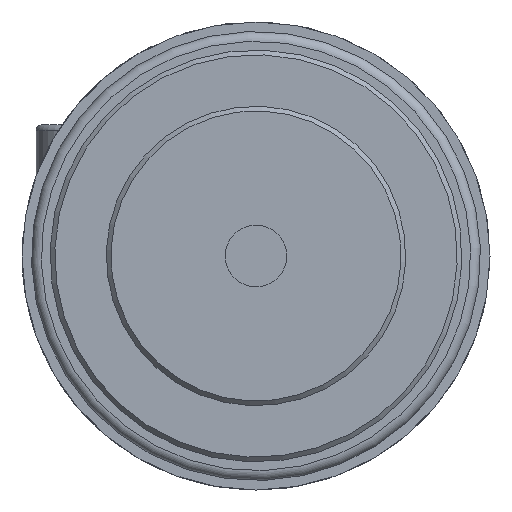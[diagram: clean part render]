
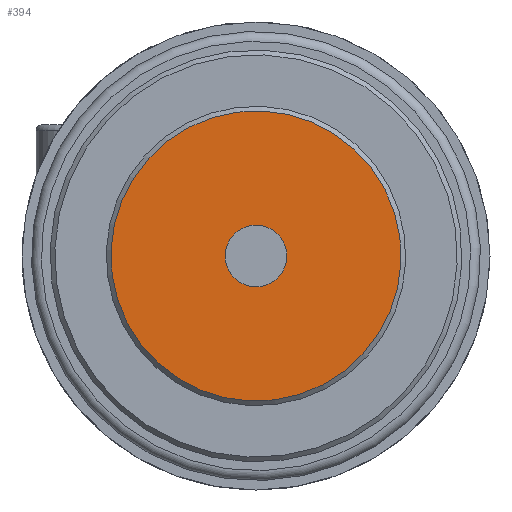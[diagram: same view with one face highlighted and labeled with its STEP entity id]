
A CAD part, left-side view. The second image highlights one B-rep face of the part: STEP entity #394.
In plain terms, the highlighted planar face has unit normal (-1, 0, 0) as drawn and (1, 0, 0) by its records, which use the part's own axes.
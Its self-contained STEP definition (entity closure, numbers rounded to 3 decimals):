
#394 = ADVANCED_FACE( '', ( #910, #911 ), #912, .T. );
#910 = FACE_OUTER_BOUND( '', #1712, .T. );
#911 = FACE_BOUND( '', #1713, .T. );
#912 = PLANE( '', #1714 );
#1712 = EDGE_LOOP( '', ( #2597 ) );
#1713 = EDGE_LOOP( '', ( #2598 ) );
#1714 = AXIS2_PLACEMENT_3D( '', #2599, #2600, #2601 );
#2597 = ORIENTED_EDGE( '', *, *, #4138, .T. );
#2598 = ORIENTED_EDGE( '', *, *, #4139, .T. );
#2599 = CARTESIAN_POINT( '', ( 19., 0., 8. ) );
#2600 = DIRECTION( '', ( 1., 0., 0. ) );
#2601 = DIRECTION( '', ( 0., 0., -1. ) );
#4138 = EDGE_CURVE( '', #4815, #4815, #4816, .T. );
#4139 = EDGE_CURVE( '', #4817, #4817, #4818, .T. );
#4815 = VERTEX_POINT( '', #5811 );
#4816 = CIRCLE( '', #5812, 7.75 );
#4817 = VERTEX_POINT( '', #5813 );
#4818 = CIRCLE( '', #5814, 1.65 );
#5811 = CARTESIAN_POINT( '', ( 19., 0., -7.75 ) );
#5812 = AXIS2_PLACEMENT_3D( '', #6800, #6801, #6802 );
#5813 = CARTESIAN_POINT( '', ( 19., 0., 1.65 ) );
#5814 = AXIS2_PLACEMENT_3D( '', #6803, #6804, #6805 );
#6800 = CARTESIAN_POINT( '', ( 19., 0., 0. ) );
#6801 = DIRECTION( '', ( 1., 0., 0. ) );
#6802 = DIRECTION( '', ( 0., 0., -1. ) );
#6803 = CARTESIAN_POINT( '', ( 19., 0., 0. ) );
#6804 = DIRECTION( '', ( -1., 0., 0. ) );
#6805 = DIRECTION( '', ( 0., 0., 1. ) );
